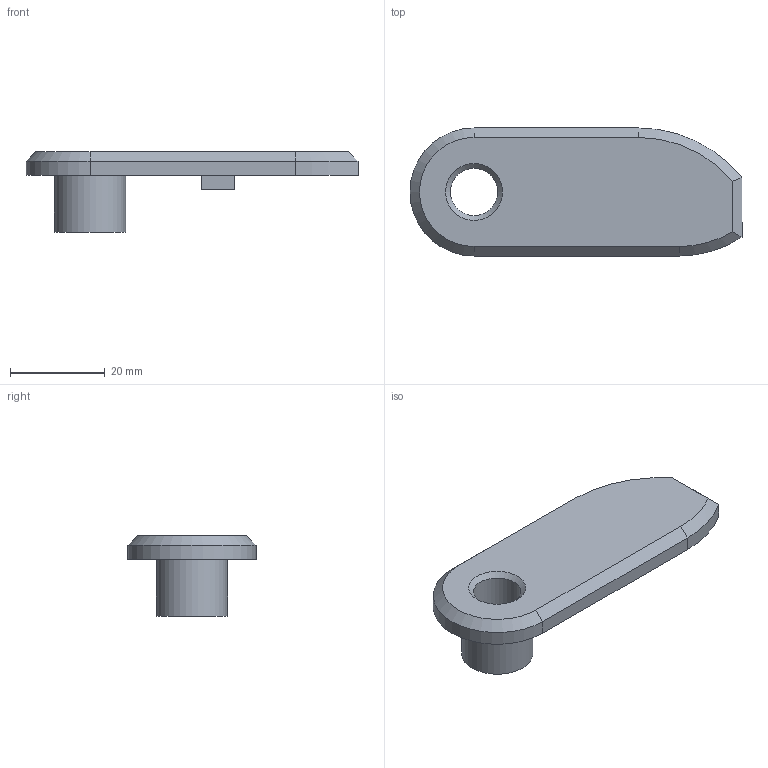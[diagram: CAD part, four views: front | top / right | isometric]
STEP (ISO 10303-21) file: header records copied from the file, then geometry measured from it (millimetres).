
FILE_DESCRIPTION (( 'STEP AP214' ), '1' );
FILE_NAME ('L21754D.step', '2024-12-03T16:25:32', ( '' ), ( '' ), 'SwSTEP 2.0', 'SolidWorks 2023', '' );
FILE_SCHEMA (( 'AUTOMOTIVE_DESIGN' ));
Length unit declared in the file: millimetre
Products named in the file (1): L21754D
Bounding box: 70 x 27 x 17 mm (x, y, z)
Volume: 9163.5 mm3; surface area: 5100.3 mm2
Topology: 1 solids, 1 shells, 23 faces, 52 edges, 33 vertices
Faces by surface type: plane 14, cylinder 5, cone 4
Full cylindrical faces by diameter (mm): 10 x1, 15 x1
Entity records: 636 total; most frequent: CARTESIAN_POINT 108, DIRECTION 107, ORIENTED_EDGE 94, EDGE_CURVE 47, AXIS2_PLACEMENT_3D 38, LINE 31, VERTEX_POINT 31, VECTOR 31
